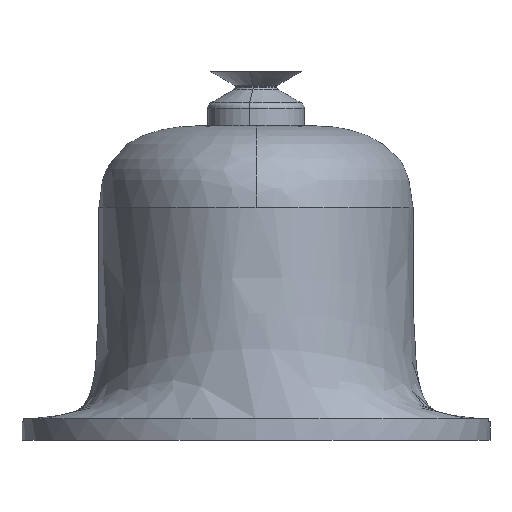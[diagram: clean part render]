
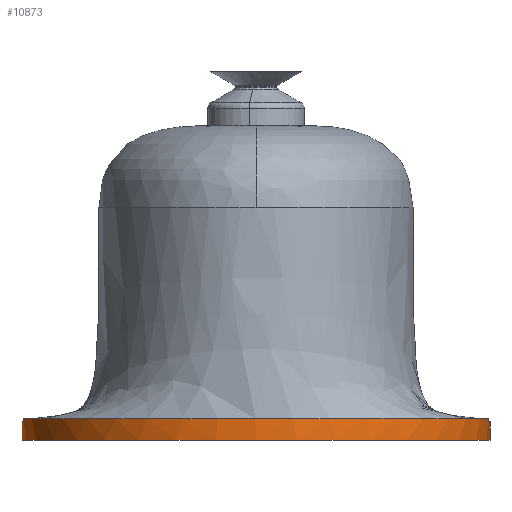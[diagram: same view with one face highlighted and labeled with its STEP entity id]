
A CAD part, front view. The second image highlights one B-rep face of the part: STEP entity #10873.
In plain terms, the highlighted cylindrical face has radius 38.75 mm (diameter 77.5 mm), a partial arc.
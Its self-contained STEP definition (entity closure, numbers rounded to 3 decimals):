
#216 = DIRECTION ( 'NONE',  ( 0., 0., 1. ) ) ;
#218 = CARTESIAN_POINT ( 'NONE',  ( 13.063, -36.499, 3.6 ) ) ;
#284 = EDGE_CURVE ( 'NONE', #5782, #13038, #5701, .T. ) ;
#365 = DIRECTION ( 'NONE',  ( 1., 0., 0. ) ) ;
#557 = DIRECTION ( 'NONE',  ( 0., 0., -1. ) ) ;
#650 = VERTEX_POINT ( 'NONE', #9463 ) ;
#834 = CARTESIAN_POINT ( 'NONE',  ( -34.237, -18.296, 3.6 ) ) ;
#1206 = VECTOR ( 'NONE', #7160, 1000. ) ;
#1617 = DIRECTION ( 'NONE',  ( 0., 0., -1. ) ) ;
#1758 = EDGE_CURVE ( 'NONE', #10360, #13038, #4301, .T. ) ;
#1884 = CARTESIAN_POINT ( 'NONE',  ( -38.426, -5., 3.1 ) ) ;
#1900 = CARTESIAN_POINT ( 'NONE',  ( -37.773, -9.216, 3.6 ) ) ;
#1960 = CARTESIAN_POINT ( 'NONE',  ( -38.324, -5.858, 3.6 ) ) ;
#2092 = CARTESIAN_POINT ( 'NONE',  ( 2.621, -38.684, 3.6 ) ) ;
#2159 = EDGE_CURVE ( 'NONE', #11823, #9017, #6508, .T. ) ;
#2285 = CARTESIAN_POINT ( 'NONE',  ( 38.433, -5., 3.6 ) ) ;
#2908 = EDGE_CURVE ( 'NONE', #10360, #650, #13091, .T. ) ;
#3040 = CARTESIAN_POINT ( 'NONE',  ( -30.009, -24.622, 3.6 ) ) ;
#3107 = CARTESIAN_POINT ( 'NONE',  ( -14.838, -35.815, 3.6 ) ) ;
#3175 = CARTESIAN_POINT ( 'NONE',  ( 38.324, -5.858, 3.6 ) ) ;
#3241 = EDGE_CURVE ( 'NONE', #13144, #5782, #7110, .T. ) ;
#3244 = CARTESIAN_POINT ( 'NONE',  ( 38.426, -5., 3.6 ) ) ;
#3282 = CARTESIAN_POINT ( 'NONE',  ( -38.433, -5., 3.6 ) ) ;
#3357 = CARTESIAN_POINT ( 'NONE',  ( 28.986, -25.751, 3.6 ) ) ;
#3424 = CARTESIAN_POINT ( 'NONE',  ( 16.578, -35.043, 3.6 ) ) ;
#3561 = VECTOR ( 'NONE', #5352, 1000. ) ;
#3575 = CARTESIAN_POINT ( 'NONE',  ( 0., 0., 3.6 ) ) ;
#3848 = CARTESIAN_POINT ( 'NONE',  ( 10.653, -37.296, 3.6 ) ) ;
#3963 = DIRECTION ( 'NONE',  ( 1., 0., 0. ) ) ;
#3974 = CARTESIAN_POINT ( 'NONE',  ( -10.653, -37.296, 3.6 ) ) ;
#4294 = CARTESIAN_POINT ( 'NONE',  ( 27.262, -27.615, 3.6 ) ) ;
#4301 = LINE ( 'NONE', #3244, #1206 ) ;
#4422 = CARTESIAN_POINT ( 'NONE',  ( 37.773, -9.216, 3.6 ) ) ;
#4812 = ORIENTED_EDGE ( 'NONE', *, *, #12406, .T. ) ;
#4854 = CARTESIAN_POINT ( 'NONE',  ( -38.75, 0., 0. ) ) ;
#4923 = DIRECTION ( 'NONE',  ( 0., 0., 1. ) ) ;
#4964 = CARTESIAN_POINT ( 'NONE',  ( -27.451, -27.445, 3.6 ) ) ;
#5018 = DIRECTION ( 'NONE',  ( 0., 0., 1. ) ) ;
#5030 = CARTESIAN_POINT ( 'NONE',  ( 0., 0., 3.1 ) ) ;
#5352 = DIRECTION ( 'NONE',  ( 0., 0., -1. ) ) ;
#5415 = CARTESIAN_POINT ( 'NONE',  ( -38.75, 0., 3.6 ) ) ;
#5566 = CYLINDRICAL_SURFACE ( 'NONE', #11219, 38.75 ) ;
#5701 = B_SPLINE_CURVE_WITH_KNOTS ( 'NONE', 3,
 ( #11012, #1960, #1900, #7152, #834, #5960, #3040, #4964, #9150, #7084, #13056, #8155, #3107, #11217, #3974, #12069, #10085, #7017, #2092, #8890, #6025, #3848, #218, #7285, #3424, #9343, #6470, #6349, #4294, #3357, #8341, #8282, #10525, #12269, #4422, #3175, #2285 ),
 .UNSPECIFIED., .F., .F.,
 ( 4, 1, 1, 1, 1, 1, 1, 1, 1, 1, 1, 1, 1, 1, 1, 1, 1, 1, 1, 1, 1, 1, 1, 1, 1, 1, 1, 1, 1, 1, 1, 1, 1, 1, 4 ),
 ( 0.521, 0.531, 0.563, 0.578, 0.594, 0.609, 0.625, 0.641, 0.656, 0.672, 0.68, 0.688, 0.695, 0.703, 0.719, 0.734, 0.75, 0.766, 0.767, 0.781, 0.797, 0.805, 0.813, 0.82, 0.828, 0.844, 0.859, 0.875, 0.888, 0.891, 0.906, 0.922, 0.938, 0.969, 0.979 ),
 .UNSPECIFIED. ) ;
#5782 = VERTEX_POINT ( 'NONE', #3282 ) ;
#5846 = CARTESIAN_POINT ( 'NONE',  ( 38.75, 0., 3.6 ) ) ;
#5914 = DIRECTION ( 'NONE',  ( 0., 0., -1. ) ) ;
#5960 = CARTESIAN_POINT ( 'NONE',  ( -32.279, -21.563, 3.6 ) ) ;
#6025 = CARTESIAN_POINT ( 'NONE',  ( 7.656, -38.047, 3.6 ) ) ;
#6042 = EDGE_LOOP ( 'NONE', ( #8173, #4812, #9360, #10001, #8953, #6621, #8972, #11892 ) ) ;
#6349 = CARTESIAN_POINT ( 'NONE',  ( 24.628, -30.002, 3.6 ) ) ;
#6470 = CARTESIAN_POINT ( 'NONE',  ( 21.568, -32.272, 3.6 ) ) ;
#6508 = CIRCLE ( 'NONE', #10133, 38.75 ) ;
#6611 = DIRECTION ( 'NONE',  ( 1., 0., 0. ) ) ;
#6621 = ORIENTED_EDGE ( 'NONE', *, *, #1758, .T. ) ;
#7006 = CARTESIAN_POINT ( 'NONE',  ( 0., 0., 3.1 ) ) ;
#7017 = CARTESIAN_POINT ( 'NONE',  ( 0., -38.812, 3.6 ) ) ;
#7084 = CARTESIAN_POINT ( 'NONE',  ( -21.568, -32.272, 3.6 ) ) ;
#7110 = LINE ( 'NONE', #9979, #7802 ) ;
#7152 = CARTESIAN_POINT ( 'NONE',  ( -36.409, -13.705, 3.6 ) ) ;
#7160 = DIRECTION ( 'NONE',  ( 0., 0., 1. ) ) ;
#7285 = CARTESIAN_POINT ( 'NONE',  ( 14.838, -35.815, 3.6 ) ) ;
#7583 = VECTOR ( 'NONE', #5914, 1000. ) ;
#7733 = CARTESIAN_POINT ( 'NONE',  ( 38.433, -5., 3.6 ) ) ;
#7802 = VECTOR ( 'NONE', #4923, 1000. ) ;
#8155 = CARTESIAN_POINT ( 'NONE',  ( -16.578, -35.043, 3.6 ) ) ;
#8173 = ORIENTED_EDGE ( 'NONE', *, *, #12005, .F. ) ;
#8282 = CARTESIAN_POINT ( 'NONE',  ( 32.279, -21.563, 3.6 ) ) ;
#8341 = CARTESIAN_POINT ( 'NONE',  ( 30.614, -23.806, 3.6 ) ) ;
#8890 = CARTESIAN_POINT ( 'NONE',  ( 5.145, -38.427, 3.6 ) ) ;
#8953 = ORIENTED_EDGE ( 'NONE', *, *, #2908, .F. ) ;
#8972 = ORIENTED_EDGE ( 'NONE', *, *, #284, .F. ) ;
#9017 = VERTEX_POINT ( 'NONE', #4854 ) ;
#9150 = CARTESIAN_POINT ( 'NONE',  ( -24.628, -30.002, 3.6 ) ) ;
#9214 = DIRECTION ( 'NONE',  ( 1., 0., 0. ) ) ;
#9250 = EDGE_CURVE ( 'NONE', #650, #11823, #13073, .T. ) ;
#9343 = CARTESIAN_POINT ( 'NONE',  ( 18.845, -33.903, 3.6 ) ) ;
#9360 = ORIENTED_EDGE ( 'NONE', *, *, #2159, .F. ) ;
#9463 = CARTESIAN_POINT ( 'NONE',  ( 38.75, 0., 3.1 ) ) ;
#9680 = FACE_OUTER_BOUND ( 'NONE', #6042, .T. ) ;
#9934 = CIRCLE ( 'NONE', #11633, 38.75 ) ;
#9953 = CARTESIAN_POINT ( 'NONE',  ( -38.75, 0., 3.1 ) ) ;
#9979 = CARTESIAN_POINT ( 'NONE',  ( -38.426, -5., 3.6 ) ) ;
#10001 = ORIENTED_EDGE ( 'NONE', *, *, #9250, .F. ) ;
#10085 = CARTESIAN_POINT ( 'NONE',  ( -3.805, -38.626, 3.6 ) ) ;
#10133 = AXIS2_PLACEMENT_3D ( 'NONE', #10474, #1617, #6611 ) ;
#10360 = VERTEX_POINT ( 'NONE', #11296 ) ;
#10474 = CARTESIAN_POINT ( 'NONE',  ( 0., 0., 0. ) ) ;
#10525 = CARTESIAN_POINT ( 'NONE',  ( 34.237, -18.296, 3.6 ) ) ;
#10660 = LINE ( 'NONE', #5415, #3561 ) ;
#10873 = ADVANCED_FACE ( 'NONE', ( #9680 ), #5566, .T. ) ;
#11012 = CARTESIAN_POINT ( 'NONE',  ( -38.433, -5., 3.6 ) ) ;
#11217 = CARTESIAN_POINT ( 'NONE',  ( -13.063, -36.499, 3.6 ) ) ;
#11219 = AXIS2_PLACEMENT_3D ( 'NONE', #3575, #557, #365 ) ;
#11296 = CARTESIAN_POINT ( 'NONE',  ( 38.426, -5., 3.1 ) ) ;
#11526 = VERTEX_POINT ( 'NONE', #9953 ) ;
#11633 = AXIS2_PLACEMENT_3D ( 'NONE', #5030, #216, #9214 ) ;
#11823 = VERTEX_POINT ( 'NONE', #12136 ) ;
#11892 = ORIENTED_EDGE ( 'NONE', *, *, #3241, .F. ) ;
#12005 = EDGE_CURVE ( 'NONE', #11526, #13144, #9934, .T. ) ;
#12037 = AXIS2_PLACEMENT_3D ( 'NONE', #7006, #5018, #3963 ) ;
#12069 = CARTESIAN_POINT ( 'NONE',  ( -7.574, -38.068, 3.6 ) ) ;
#12136 = CARTESIAN_POINT ( 'NONE',  ( 38.75, 0., 0. ) ) ;
#12269 = CARTESIAN_POINT ( 'NONE',  ( 36.409, -13.705, 3.6 ) ) ;
#12406 = EDGE_CURVE ( 'NONE', #11526, #9017, #10660, .T. ) ;
#13038 = VERTEX_POINT ( 'NONE', #7733 ) ;
#13056 = CARTESIAN_POINT ( 'NONE',  ( -18.845, -33.903, 3.6 ) ) ;
#13073 = LINE ( 'NONE', #5846, #7583 ) ;
#13091 = CIRCLE ( 'NONE', #12037, 38.75 ) ;
#13144 = VERTEX_POINT ( 'NONE', #1884 ) ;
